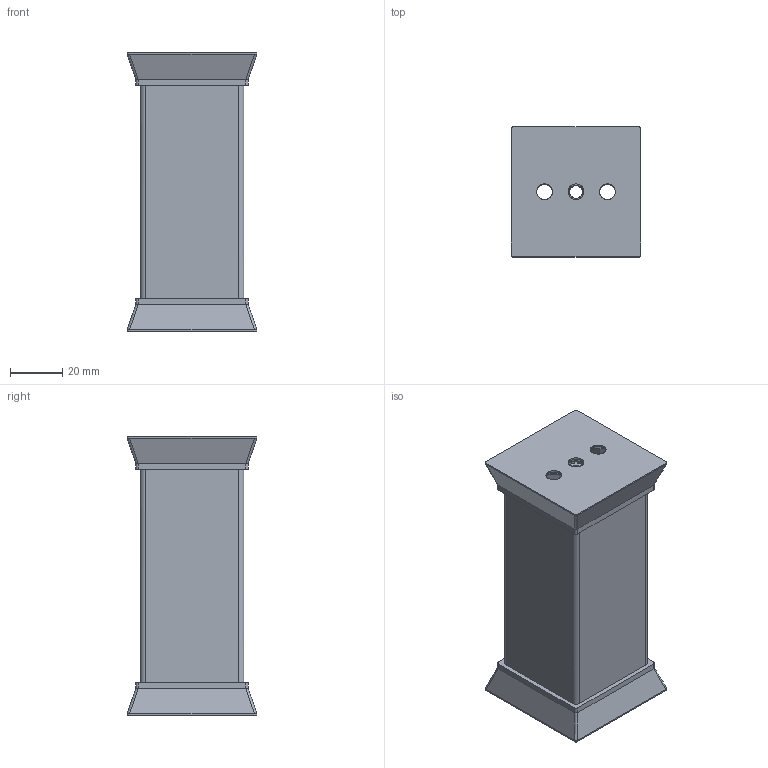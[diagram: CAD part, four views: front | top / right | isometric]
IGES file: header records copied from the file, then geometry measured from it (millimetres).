
Start section: C
Global section: file name: 8098-100.igs; native system: By Siemens PLM Incorporated; preprocessor: XPlus GENERIC/IGES 16.0.42; author: Author; organization: Title; date: 20260104.135808; units: millimetre
Bounding box: 49.7 x 49.7 x 106.55 mm (x, y, z)
Surface area: 76420 mm2 (no closed solid volume)
Topology: 0 solids, 0 shells, 248 faces, 1376 edges, 1376 vertices
Faces by surface type: bspline 248
